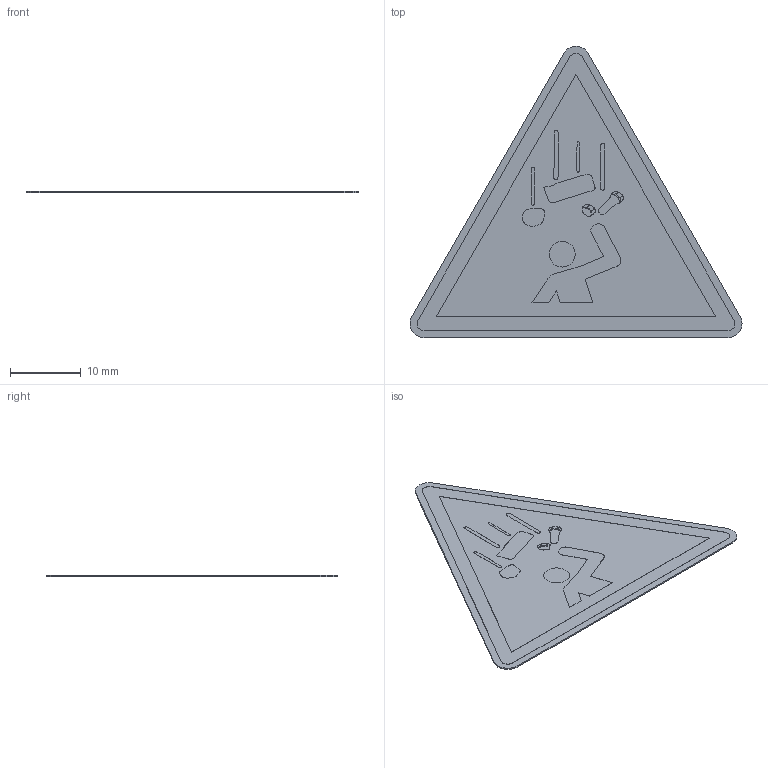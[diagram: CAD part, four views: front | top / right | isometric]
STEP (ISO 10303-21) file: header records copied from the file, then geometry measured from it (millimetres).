
FILE_DESCRIPTION (( 'STEP AP214' ), '1' );
FILE_NAME ('W035_Warnung vor herabfallenden Gegenständen.STEP', '2022-02-22T08:25:09', ( '' ), ( '' ), 'SwSTEP 2.0', 'SolidWorks 2021', '' );
FILE_SCHEMA (( 'AUTOMOTIVE_DESIGN' ));
Length unit declared in the file: millimetre
Products named in the file (1): W035_Warnung vor herabfallenden Gegenständen
Bounding box: 47.07 x 41.3 x 0.22 mm (x, y, z)
Volume: 221 mm3; surface area: 2183.8 mm2
Topology: 1 solids, 1 shells, 80 faces, 183 edges, 122 vertices
Faces by surface type: plane 41, bspline 26, cylinder 13
Entity records: 4017 total; most frequent: CARTESIAN_POINT 1552, ORIENTED_EDGE 366, DIRECTION 265, EDGE_CURVE 183, VERTEX_POINT 122, VECTOR 103, LINE 103, EDGE_LOOP 97
